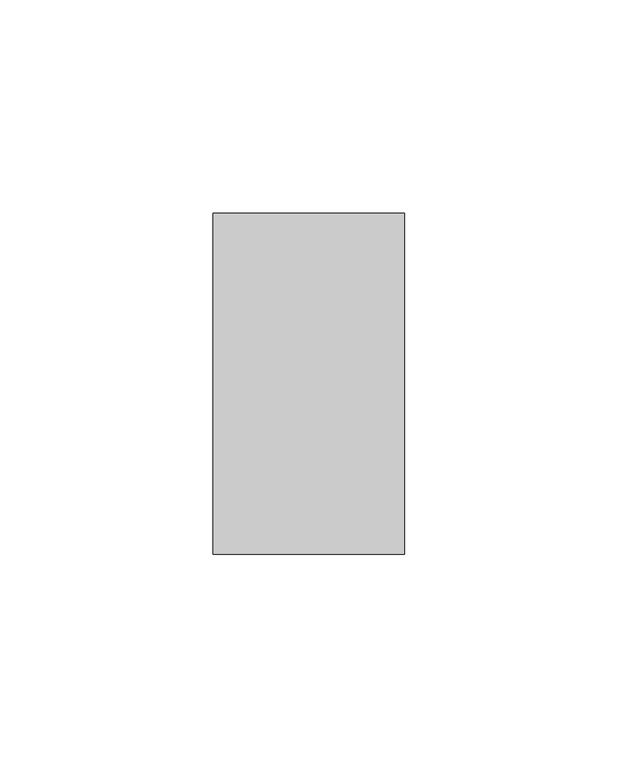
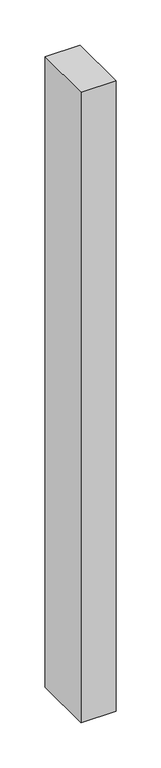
"""IFC4 building model written with IfcOpenShell, lengths in millimetres: member geometry, Obdélníková příčel : VERTI ELEMENT - vertikální."""

import ifcopenshell
import ifcopenshell.guid

model = None  # the IFC model being written
_history = None  # IfcOwnerHistory: only IFC2X3 demands one
_inside = {}  # id of a spatial element -> (the spatial element, [elements in it])
_under = {}  # id of a project, library or spatial element -> (it, [spatial elements below it])
_declared = {}  # id of a project -> (the project, [libraries it declares])
_typed = {}  # id of a type object -> (the type object, [elements of that type])
_made_of = {}  # id of a material, layer set ... -> (it, [elements and type objects made of it])


def new_model(schema):
    """Start an empty IFC model of exactly this schema.

    Asked for "IFC4X3", IfcOpenShell would pick the latest addendum, in which some entities
    have other attributes; the version numbers below select the first issue.
    IFC2X3 requires an IfcOwnerHistory on every rooted entity: one is made here for all.
    """
    global model, _history
    if schema == "IFC4X3":
        model = ifcopenshell.file(schema_version=(4, 3, 0, 0))
    else:
        model = ifcopenshell.file(schema=schema)
    _inside.clear()
    _under.clear()
    _declared.clear()
    _typed.clear()
    _made_of.clear()
    _history = None
    if model.schema == "IFC2X3":
        org = make("IfcOrganization", Name="unknown")
        user = make(
            "IfcPersonAndOrganization",
            ThePerson=make("IfcPerson", FamilyName="unknown"),
            TheOrganization=org,
        )
        app = make(
            "IfcApplication",
            ApplicationDeveloper=org,
            Version="unknown",
            ApplicationFullName="unknown",
            ApplicationIdentifier="unknown",
        )
        _history = make(
            "IfcOwnerHistory",
            OwningUser=user,
            OwningApplication=app,
            ChangeAction="ADDED",
            CreationDate=0,
        )
    return model


def make(cls, **values):
    """One entity of the class cls with the attributes given. An attribute that is None is left unset."""
    return model.create_entity(
        cls, **{name: value for name, value in values.items() if value is not None}
    )


def rooted(cls, **values):
    """An entity with a GlobalId (a new one), such as an element, a storey or a relation."""
    return make(cls, GlobalId=ifcopenshell.guid.new(), OwnerHistory=_history, **values)


def si_unit(unit_type, name, prefix=None):
    """IfcSIUnit, for example si_unit("LENGTHUNIT", "METRE", prefix="MILLI")."""
    return make("IfcSIUnit", UnitType=unit_type, Prefix=prefix, Name=name)


def assignment(units):
    """IfcUnitAssignment: the units of a project."""
    return None if units is None else make("IfcUnitAssignment", Units=units)


def point(xyz):
    """IfcCartesianPoint."""
    return None if xyz is None else make("IfcCartesianPoint", Coordinates=xyz)


def direction(xyz):
    """IfcDirection."""
    return None if xyz is None else make("IfcDirection", DirectionRatios=xyz)


def frame(location, z_axis=None, x_axis=None):
    """IfcAxis2Placement3D, a coordinate frame: its origin and axes. An axis left out is left unset."""
    return make(
        "IfcAxis2Placement3D",
        Location=point(location),
        Axis=direction(z_axis),
        RefDirection=direction(x_axis),
    )


def origin():
    """The frame at (0, 0, 0) with its axes left unset."""
    return frame((0.0, 0.0, 0.0))


def place(relative_to, where):
    """IfcLocalPlacement: puts the frame where relative to a parent placement (None: the world)."""
    return make(
        "IfcLocalPlacement", PlacementRelTo=relative_to, RelativePlacement=where
    )


def context(
    kind, dimensions, precision=None, world=None, true_north=None, identifier=None
):
    """IfcGeometricRepresentationContext, for example the 3D "Model" context."""
    return make(
        "IfcGeometricRepresentationContext",
        ContextIdentifier=identifier,
        ContextType=kind,
        CoordinateSpaceDimension=dimensions,
        Precision=precision,
        WorldCoordinateSystem=world,
        TrueNorth=true_north,
    )


def project(units=None, contexts=None):
    """IfcProject with its units and contexts."""
    return rooted(
        "IfcProject",
        Name="project",
        RepresentationContexts=contexts,
        UnitsInContext=assignment(units),
    )


def spatial(cls, under=None, at=None, **own):
    """A site, building, storey or space (cls), placed at a placement, below another one or the project."""
    s = rooted(cls, ObjectPlacement=at, **own)
    if under is not None:
        _under.setdefault(under.id(), (under, []))[1].append(s)
    return s


def polyline(points):
    """IfcPolyline through the points."""
    return make("IfcPolyline", Points=[point(p) for p in points])


def outline(outer, holes=None, kind="AREA"):
    """IfcArbitraryClosedProfileDef: a profile drawn as a closed curve; with holes, ...WithVoids."""
    if holes is None:
        return make("IfcArbitraryClosedProfileDef", ProfileType=kind, OuterCurve=outer)
    return make(
        "IfcArbitraryProfileDefWithVoids",
        ProfileType=kind,
        OuterCurve=outer,
        InnerCurves=holes,
    )


def extrude(swept, where, along, depth):
    """IfcExtrudedAreaSolid: the profile swept, set in the frame where, extruded along a direction by depth."""
    return make(
        "IfcExtrudedAreaSolid",
        SweptArea=swept,
        Position=where,
        ExtrudedDirection=direction(along),
        Depth=depth,
    )


def shape(context_of_items, identifier, shape_type, items):
    """IfcShapeRepresentation: the items that make up one representation, for example the "Body"."""
    return make(
        "IfcShapeRepresentation",
        ContextOfItems=context_of_items,
        RepresentationIdentifier=identifier,
        RepresentationType=shape_type,
        Items=items,
    )


def source(mapping_origin, context_of_items, identifier, shape_type, items):
    """IfcRepresentationMap: a shape defined once, which mapped items show again and again."""
    return make(
        "IfcRepresentationMap",
        MappingOrigin=mapping_origin,
        MappedRepresentation=shape(context_of_items, identifier, shape_type, items),
    )


def transform(
    local_origin,
    x_axis=None,
    y_axis=None,
    z_axis=None,
    scale=None,
    scale2=None,
    scale3=None,
    uniform=True,
):
    """IfcCartesianTransformationOperator3D, or its non-uniform kind. x_axis, y_axis, z_axis: its Axis1, 2, 3."""
    if uniform:
        return make(
            "IfcCartesianTransformationOperator3D",
            Axis1=direction(x_axis),
            Axis2=direction(y_axis),
            LocalOrigin=point(local_origin),
            Scale=scale,
            Axis3=direction(z_axis),
        )
    return make(
        "IfcCartesianTransformationOperator3DnonUniform",
        Axis1=direction(x_axis),
        Axis2=direction(y_axis),
        LocalOrigin=point(local_origin),
        Scale=scale,
        Axis3=direction(z_axis),
        Scale2=scale2,
        Scale3=scale3,
    )


def mapped(mapping_source, mapping_target):
    """IfcMappedItem: shows the shape of a source again, moved by a transform."""
    return make(
        "IfcMappedItem", MappingSource=mapping_source, MappingTarget=mapping_target
    )


def made_of(thing, what):
    """Note that an element or type object is made of a material, layer set ...; save() writes the relation."""
    if what is not None:
        _made_of.setdefault(what.id(), (what, []))[1].append(thing)
    return thing


def element(
    cls,
    number,
    at=None,
    inside=None,
    cuts=None,
    type_object=None,
    material=None,
    context=None,
    identifier="Body",
    shape_type=None,
    held_by="IfcProductDefinitionShape",
    body=None,
    shapes=None,
    **own,
):
    """One element of the class cls, such as IfcWall. Its Tag is "e" and its number.

    at: its placement. inside: the storey or other place that contains it. cuts: it is an
    opening in that element (IfcRelVoidsElement). A single representation is given by context,
    identifier, shape_type and body (its items); several are given by shapes. held_by: the class
    of the entity that holds the representations. save() writes the other relations.
    """
    e = rooted(cls, Tag="e%d" % number, ObjectPlacement=at, **own)
    if body is not None:
        shapes = [shape(context, identifier, shape_type, body)]
    if shapes is not None:
        e.Representation = make(held_by, Representations=shapes)
    if inside is not None:
        _inside.setdefault(inside.id(), (inside, []))[1].append(e)
    if cuts is not None:
        rooted(
            "IfcRelVoidsElement", RelatingBuildingElement=cuts, RelatedOpeningElement=e
        )
    if type_object is not None:
        _typed.setdefault(type_object.id(), (type_object, []))[1].append(e)
    return made_of(e, material)


def aggregate(whole, parts):
    """IfcRelAggregates: a whole, such as a stair, and the parts it consists of."""
    return rooted("IfcRelAggregates", RelatingObject=whole, RelatedObjects=parts)


def save(model, path):
    """Write the relations noted so far, then the file.

    IfcRelAggregates (storeys below a building ...), IfcRelContainedInSpatialStructure (elements
    in a storey), IfcRelDefinesByType, IfcRelAssociatesMaterial and IfcRelDeclares: one each for
    every whole, place, type object, material and project.
    """
    for whole, parts in _under.values():
        aggregate(whole, parts)
    for where, things in _inside.values():
        rooted(
            "IfcRelContainedInSpatialStructure",
            RelatedElements=things,
            RelatingStructure=where,
        )
    for kind, things in _typed.values():
        rooted("IfcRelDefinesByType", RelatedObjects=things, RelatingType=kind)
    for what, things in _made_of.values():
        rooted("IfcRelAssociatesMaterial", RelatedObjects=things, RelatingMaterial=what)
    for by, libraries in _declared.values():
        rooted("IfcRelDeclares", RelatingContext=by, RelatedDefinitions=libraries)
    model.write(path)


def member_b6e094f6(model_context):
    return source(origin(), model_context, "Body", "SweptSolid", [
        extrude(outline(polyline([(22.5, 40.0), (22.5, -40.0), (-22.5, -40.0), (-22.5, 40.0), (22.5, 40.0)])), frame((0.0, 0.0, -855.0), z_axis=(0.0, 0.0, 1.0), x_axis=(1.0, 0.0, 0.0)), (0.0, 0.0, 1.0), 855.0),
    ])


if __name__ == "__main__":
    model = new_model("IFC4")
    model_context = context("Model", 3, world=origin())
    ifc_project = project(units=[si_unit("LENGTHUNIT", "METRE", prefix="MILLI")], contexts=[model_context])
    site = spatial("IfcSite", under=ifc_project)
    building = spatial("IfcBuilding", under=site)
    placement = place(None, origin())
    member_shape = member_b6e094f6(model_context)
    element("IfcMember", 1, ObjectType="Obdélníková příčel : VERTI ELEMENT - vertikální", at=placement, inside=building, context=model_context, shape_type="MappedRepresentation", body=[
        mapped(member_shape, transform((0.0, 0.0, 0.0), x_axis=(1.0, 0.0, 0.0), y_axis=(0.0, 1.0, 0.0), z_axis=(0.0, 0.0, 1.0))),
    ])
    save(model, "model.ifc")
